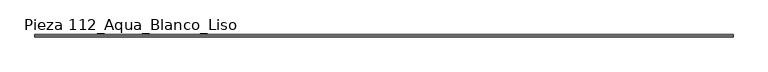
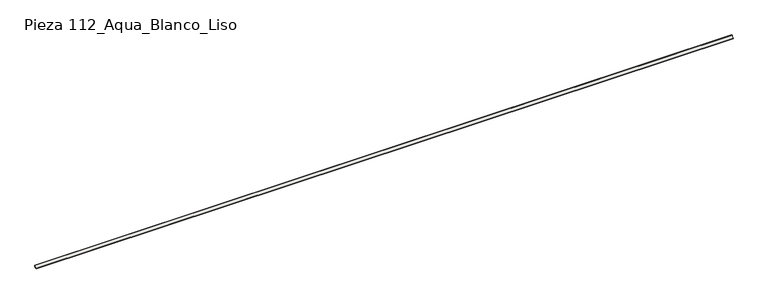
"""IFC4 building model written with IfcOpenShell, lengths in millimetres: slab geometry, ROSA GRES_112 : Pieza 112_Aqua_Blanco_Liso."""

from ifc_helpers import new_model, si_unit, point, frame, frame_2d, origin, place, context, project, spatial, polyline, circle_curve, trimmed, segment, composite_curve, outline, extrude, source, transform, mapped, element, save


def pieza_112_aqua_blanco_liso_228b5f5c(model_context):
    return source(origin(), model_context, "Body", "SweptSolid", [
        extrude(outline(composite_curve([segment(polyline([(9.9734114, 8.7114978), (1.2619137, 0.0), (-30.0265886, 0.0), (-30.0265886, 9.9734114)]), True, "CONTINUOUS"), segment(trimmed(circle_curve(frame_2d((-30.0221432, 39.9955547)), 30.0221435), [point((-30.0265886, 9.9734114))], [point((0.0, 40.0))], True, "CARTESIAN"), True, "CONTINUOUS"), segment(polyline([(0.0, 40.0), (9.9734114, 40.0), (9.9734114, 8.7114978)]), True, "CONTINUOUS")], self_intersect=False)), frame((0.0, 0.0, 0.0), z_axis=(1.0, 0.0, 0.0), x_axis=(0.0, 1.0, 0.0)), (0.0, 0.0, 1.0), 11521.4920695),
    ])


if __name__ == "__main__":
    model = new_model("IFC4")
    model_context = context("Model", 3, world=origin())
    ifc_project = project(units=[si_unit("LENGTHUNIT", "METRE", prefix="MILLI")], contexts=[model_context])
    site = spatial("IfcSite", under=ifc_project)
    building = spatial("IfcBuilding", under=site)
    placement = place(None, origin())
    pieza_112_aqua_blanco_liso_shape = pieza_112_aqua_blanco_liso_228b5f5c(model_context)
    element("IfcSlab", 1, ObjectType="ROSA GRES_112 : Pieza 112_Aqua_Blanco_Liso", at=placement, inside=building, context=model_context, shape_type="MappedRepresentation", body=[
        mapped(pieza_112_aqua_blanco_liso_shape, transform((0.0, 0.0, 0.0), x_axis=(1.0, 0.0, 0.0), y_axis=(0.0, 1.0, 0.0), z_axis=(0.0, 0.0, 1.0))),
    ])
    save(model, "model.ifc")
